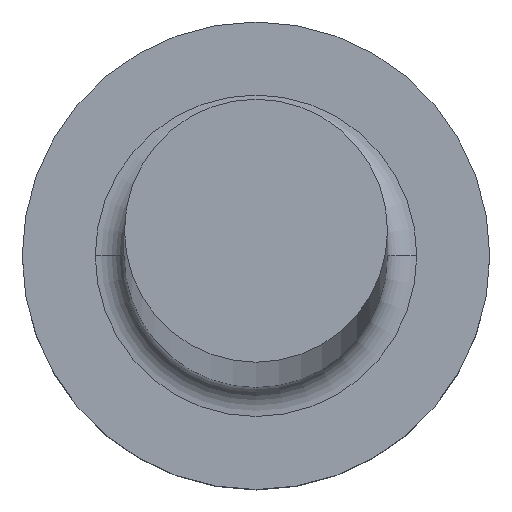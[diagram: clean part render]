
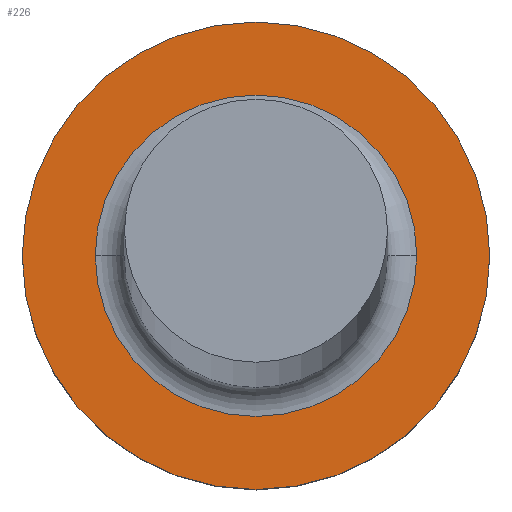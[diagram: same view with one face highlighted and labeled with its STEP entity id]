
A CAD part, top view. The second image highlights one B-rep face of the part: STEP entity #226.
In plain terms, the highlighted planar face has unit normal (0, 0, 1).
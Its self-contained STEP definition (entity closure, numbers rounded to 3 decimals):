
#10 = ORIENTED_EDGE ( 'NONE', *, *, #47, .F. ) ;
#18 = DIRECTION ( 'NONE',  ( 0., 0., -1. ) ) ;
#21 = FACE_OUTER_BOUND ( 'NONE', #59, .T. ) ;
#23 = EDGE_CURVE ( 'NONE', #169, #90, #246, .T. ) ;
#30 = AXIS2_PLACEMENT_3D ( 'NONE', #98, #18, #143 ) ;
#34 = AXIS2_PLACEMENT_3D ( 'NONE', #243, #138, #55 ) ;
#37 = EDGE_CURVE ( 'NONE', #90, #169, #237, .T. ) ;
#40 = CARTESIAN_POINT ( 'NONE',  ( -2.75, 0., 4. ) ) ;
#46 = EDGE_LOOP ( 'NONE', ( #239, #166 ) ) ;
#47 = EDGE_CURVE ( 'NONE', #134, #199, #82, .T. ) ;
#53 = AXIS2_PLACEMENT_3D ( 'NONE', #201, #247, #268 ) ;
#55 = DIRECTION ( 'NONE',  ( -1., 0., 0. ) ) ;
#59 = EDGE_LOOP ( 'NONE', ( #10, #65 ) ) ;
#65 = ORIENTED_EDGE ( 'NONE', *, *, #66, .F. ) ;
#66 = EDGE_CURVE ( 'NONE', #199, #134, #188, .T. ) ;
#82 = CIRCLE ( 'NONE', #174, 4. ) ;
#90 = VERTEX_POINT ( 'NONE', #197 ) ;
#98 = CARTESIAN_POINT ( 'NONE',  ( 4., 0., 4. ) ) ;
#101 = CARTESIAN_POINT ( 'NONE',  ( 4., 0., 4. ) ) ;
#110 = DIRECTION ( 'NONE',  ( 0., 0., -1. ) ) ;
#112 = DIRECTION ( 'NONE',  ( -1., 0., 0. ) ) ;
#134 = VERTEX_POINT ( 'NONE', #248 ) ;
#138 = DIRECTION ( 'NONE',  ( 0., 0., -1. ) ) ;
#143 = DIRECTION ( 'NONE',  ( -1., 0., 0. ) ) ;
#166 = ORIENTED_EDGE ( 'NONE', *, *, #37, .T. ) ;
#169 = VERTEX_POINT ( 'NONE', #40 ) ;
#170 = FACE_BOUND ( 'NONE', #46, .T. ) ;
#173 = CARTESIAN_POINT ( 'NONE',  ( 0., 0., 4. ) ) ;
#174 = AXIS2_PLACEMENT_3D ( 'NONE', #173, #110, #112 ) ;
#188 = CIRCLE ( 'NONE', #34, 4. ) ;
#194 = AXIS2_PLACEMENT_3D ( 'NONE', #223, #263, #266 ) ;
#197 = CARTESIAN_POINT ( 'NONE',  ( 2.75, 0., 4. ) ) ;
#199 = VERTEX_POINT ( 'NONE', #101 ) ;
#201 = CARTESIAN_POINT ( 'NONE',  ( 0., 0., 4. ) ) ;
#204 = PLANE ( 'NONE',  #30 ) ;
#223 = CARTESIAN_POINT ( 'NONE',  ( 0., 0., 4. ) ) ;
#226 = ADVANCED_FACE ( 'NONE', ( #170, #21 ), #204, .F. ) ;
#237 = CIRCLE ( 'NONE', #53, 2.75 ) ;
#239 = ORIENTED_EDGE ( 'NONE', *, *, #23, .T. ) ;
#243 = CARTESIAN_POINT ( 'NONE',  ( 0., 0., 4. ) ) ;
#246 = CIRCLE ( 'NONE', #194, 2.75 ) ;
#247 = DIRECTION ( 'NONE',  ( 0., 0., -1. ) ) ;
#248 = CARTESIAN_POINT ( 'NONE',  ( -4., 0., 4. ) ) ;
#263 = DIRECTION ( 'NONE',  ( 0., 0., -1. ) ) ;
#266 = DIRECTION ( 'NONE',  ( -1., 0., 0. ) ) ;
#268 = DIRECTION ( 'NONE',  ( -1., 0., 0. ) ) ;
